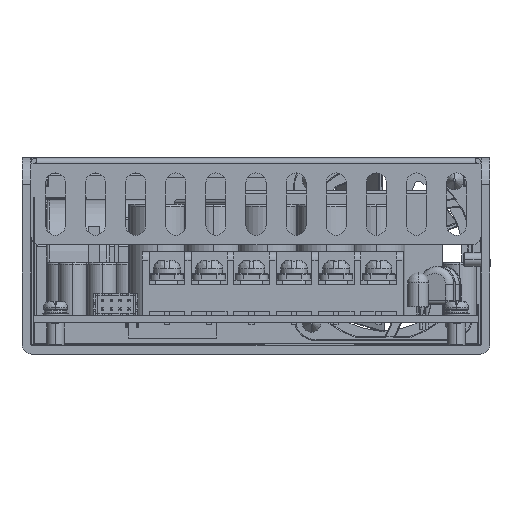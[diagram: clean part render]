
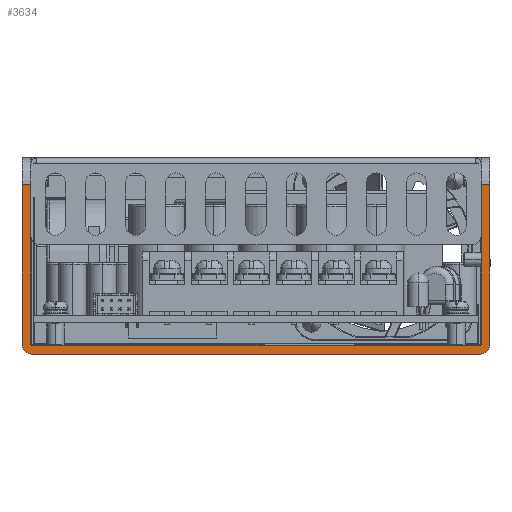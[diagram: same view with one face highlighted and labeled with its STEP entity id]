
A CAD part, left-side view. The second image highlights one B-rep face of the part: STEP entity #3634.
In plain terms, the highlighted planar face has unit normal (-1, 0, 0).
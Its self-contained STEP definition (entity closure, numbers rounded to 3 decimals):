
#732=DIRECTION('',(0.,1.,0.));
#733=VECTOR('',#732,100.6);
#734=CARTESIAN_POINT('',(0.,2.2,0.));
#735=LINE('',#734,#733);
#866=DIRECTION('',(0.,-1.,0.));
#867=VECTOR('',#866,100.6);
#868=CARTESIAN_POINT('',(0.,102.8,2.));
#869=LINE('',#868,#867);
#988=DIRECTION('',(0.,0.,1.));
#989=VECTOR('',#988,35.8);
#990=CARTESIAN_POINT('',(0.,2.,2.2));
#991=LINE('',#990,#989);
#1133=DIRECTION('',(0.,0.,-1.));
#1134=VECTOR('',#1133,35.8);
#1135=CARTESIAN_POINT('',(0.,0.,38.));
#1136=LINE('',#1135,#1134);
#1278=CARTESIAN_POINT('',(0.,102.8,2.2));
#1279=DIRECTION('',(1.,0.,0.));
#1280=DIRECTION('',(0.,0.,-1.));
#1281=AXIS2_PLACEMENT_3D('',#1278,#1279,#1280);
#1283=CARTESIAN_POINT('',(0.,2.2,2.2));
#1284=DIRECTION('',(1.,0.,0.));
#1285=DIRECTION('',(0.,-1.,0.));
#1286=AXIS2_PLACEMENT_3D('',#1283,#1284,#1285);
#1288=CARTESIAN_POINT('',(0.,2.2,2.2));
#1289=DIRECTION('',(-1.,0.,0.));
#1290=DIRECTION('',(0.,0.,-1.));
#1291=AXIS2_PLACEMENT_3D('',#1288,#1289,#1290);
#1293=CARTESIAN_POINT('',(0.,102.8,2.2));
#1294=DIRECTION('',(-1.,0.,0.));
#1295=DIRECTION('',(0.,1.,0.));
#1296=AXIS2_PLACEMENT_3D('',#1293,#1294,#1295);
#1302=DIRECTION('',(0.,-1.,0.));
#1303=VECTOR('',#1302,2.);
#1304=CARTESIAN_POINT('',(0.,105.,38.));
#1305=LINE('',#1304,#1303);
#1320=DIRECTION('',(0.,0.,1.));
#1321=VECTOR('',#1320,35.8);
#1322=CARTESIAN_POINT('',(0.,105.,2.2));
#1323=LINE('',#1322,#1321);
#1377=DIRECTION('',(0.,0.,-1.));
#1378=VECTOR('',#1377,35.8);
#1379=CARTESIAN_POINT('',(0.,103.,38.));
#1380=LINE('',#1379,#1378);
#1462=DIRECTION('',(0.,-1.,0.));
#1463=VECTOR('',#1462,2.);
#1464=CARTESIAN_POINT('',(0.,2.,38.));
#1465=LINE('',#1464,#1463);
#2388=CARTESIAN_POINT('',(0.,103.,38.));
#2389=VERTEX_POINT('',#2388);
#2390=CARTESIAN_POINT('',(0.,103.,2.2));
#2391=VERTEX_POINT('',#2390);
#2410=CARTESIAN_POINT('',(0.,2.,2.2));
#2411=VERTEX_POINT('',#2410);
#2412=CARTESIAN_POINT('',(0.,2.,38.));
#2413=VERTEX_POINT('',#2412);
#2414=CARTESIAN_POINT('',(0.,105.,38.));
#2416=VERTEX_POINT('',#2414);
#2418=CARTESIAN_POINT('',(0.,105.,2.2));
#2419=VERTEX_POINT('',#2418);
#2420=CARTESIAN_POINT('',(0.,102.8,0.));
#2421=VERTEX_POINT('',#2420);
#2422=CARTESIAN_POINT('',(0.,2.2,0.));
#2423=VERTEX_POINT('',#2422);
#2424=CARTESIAN_POINT('',(0.,0.,2.2));
#2425=VERTEX_POINT('',#2424);
#2426=CARTESIAN_POINT('',(0.,0.,38.));
#2427=VERTEX_POINT('',#2426);
#2428=CARTESIAN_POINT('',(0.,2.2,2.));
#2429=VERTEX_POINT('',#2428);
#2430=CARTESIAN_POINT('',(0.,102.8,2.));
#2431=VERTEX_POINT('',#2430);
#3611=CARTESIAN_POINT('',(0.,0.,0.));
#3612=DIRECTION('',(-1.,0.,0.));
#3613=DIRECTION('',(0.,0.,1.));
#3614=AXIS2_PLACEMENT_3D('',#3611,#3612,#3613);
#3615=PLANE('',#3614);
#3617=ORIENTED_EDGE('',*,*,#3616,.T.);
#3619=ORIENTED_EDGE('',*,*,#3618,.T.);
#3620=ORIENTED_EDGE('',*,*,#3291,.F.);
#3621=ORIENTED_EDGE('',*,*,#3306,.T.);
#3622=ORIENTED_EDGE('',*,*,#3380,.F.);
#3623=ORIENTED_EDGE('',*,*,#3397,.T.);
#3625=ORIENTED_EDGE('',*,*,#3624,.T.);
#3626=ORIENTED_EDGE('',*,*,#3505,.T.);
#3627=ORIENTED_EDGE('',*,*,#3173,.F.);
#3628=ORIENTED_EDGE('',*,*,#3188,.T.);
#3629=ORIENTED_EDGE('',*,*,#3263,.F.);
#3631=ORIENTED_EDGE('',*,*,#3630,.T.);
#3632=EDGE_LOOP('',(#3617,#3619,#3620,#3621,#3622,#3623,#3625,#3626,#3627,#3628,
#3629,#3631));
#3633=FACE_OUTER_BOUND('',#3632,.F.);
#1282=CIRCLE('',#1281,0.2);
#1287=CIRCLE('',#1286,0.2);
#1292=CIRCLE('',#1291,2.2);
#1297=CIRCLE('',#1296,2.2);
#3173=EDGE_CURVE('',#2423,#2425,#1292,.T.);
#3188=EDGE_CURVE('',#2423,#2421,#735,.T.);
#3263=EDGE_CURVE('',#2419,#2421,#1297,.T.);
#3291=EDGE_CURVE('',#2431,#2391,#1282,.T.);
#3306=EDGE_CURVE('',#2431,#2429,#869,.T.);
#3380=EDGE_CURVE('',#2411,#2429,#1287,.T.);
#3397=EDGE_CURVE('',#2411,#2413,#991,.T.);
#3505=EDGE_CURVE('',#2427,#2425,#1136,.T.);
#3616=EDGE_CURVE('',#2416,#2389,#1305,.T.);
#3618=EDGE_CURVE('',#2389,#2391,#1380,.T.);
#3624=EDGE_CURVE('',#2413,#2427,#1465,.T.);
#3630=EDGE_CURVE('',#2419,#2416,#1323,.T.);
#3634=ADVANCED_FACE('',(#3633),#3615,.T.);
